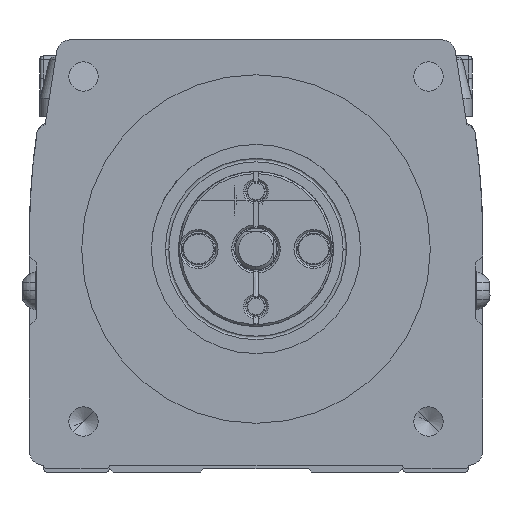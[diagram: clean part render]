
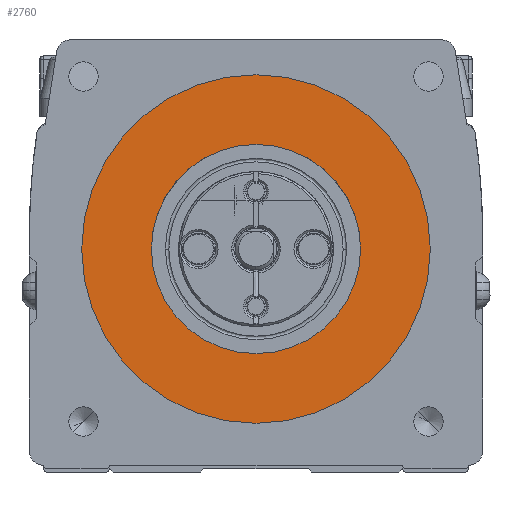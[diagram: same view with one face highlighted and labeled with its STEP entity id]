
A CAD part, left-side view. The second image highlights one B-rep face of the part: STEP entity #2760.
In plain terms, the highlighted planar face has unit normal (-1, 0, 0).
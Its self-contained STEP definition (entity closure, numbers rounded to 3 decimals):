
#2760=ADVANCED_FACE('',(#5066,#5067),#5068,.F.);
#5066=FACE_BOUND('',#9902,.T.);
#5067=FACE_OUTER_BOUND('',#9903,.T.);
#5068=PLANE('',#9904);
#9902=EDGE_LOOP('',(#16973,#16974));
#9903=EDGE_LOOP('',(#16975,#16976));
#9904=AXIS2_PLACEMENT_3D('',#16977,#16978,#16979);
#16973=ORIENTED_EDGE('',*,*,#35017,.T.);
#16974=ORIENTED_EDGE('',*,*,#35115,.T.);
#16975=ORIENTED_EDGE('',*,*,#35148,.T.);
#16976=ORIENTED_EDGE('',*,*,#35009,.T.);
#16977=CARTESIAN_POINT('',(-76.5,0.,0.));
#16978=DIRECTION('',(1.0,0.,0.));
#16979=DIRECTION('',(0.,1.0,0.));
#35009=EDGE_CURVE('',#40912,#40909,#40913,.T.);
#35017=EDGE_CURVE('',#40926,#40923,#40927,.T.);
#35115=EDGE_CURVE('',#40923,#40926,#41088,.T.);
#35148=EDGE_CURVE('',#40909,#40912,#41145,.T.);
#40909=VERTEX_POINT('',#50663);
#40912=VERTEX_POINT('',#50667);
#40913=CIRCLE('',#50668,25.0);
#40923=VERTEX_POINT('',#50703);
#40926=VERTEX_POINT('',#50707);
#40927=CIRCLE('',#50708,15.0);
#41088=CIRCLE('',#50990,15.0);
#41145=CIRCLE('',#51126,25.0);
#50663=CARTESIAN_POINT('',(-76.5,25.,0.));
#50667=CARTESIAN_POINT('',(-76.5,-25.,0.));
#50668=AXIS2_PLACEMENT_3D('',#65697,#65698,#65699);
#50703=CARTESIAN_POINT('',(-76.5,15.0,0.));
#50707=CARTESIAN_POINT('',(-76.5,-15.,0.));
#50708=AXIS2_PLACEMENT_3D('',#65707,#65708,#65709);
#50990=AXIS2_PLACEMENT_3D('',#65867,#65868,#65869);
#51126=AXIS2_PLACEMENT_3D('',#65924,#65925,#65926);
#65697=CARTESIAN_POINT('',(-76.5,0.,0.));
#65698=DIRECTION('',(-1.0,0.,0.));
#65699=DIRECTION('',(0.,1.0,0.));
#65707=CARTESIAN_POINT('',(-76.5,0.,0.));
#65708=DIRECTION('',(1.0,0.,0.));
#65709=DIRECTION('',(0.,1.0,0.));
#65867=CARTESIAN_POINT('',(-76.5,0.,0.));
#65868=DIRECTION('',(1.0,0.,0.));
#65869=DIRECTION('',(0.,1.0,0.));
#65924=CARTESIAN_POINT('',(-76.5,0.,0.));
#65925=DIRECTION('',(-1.0,0.,0.));
#65926=DIRECTION('',(0.,1.0,0.));
